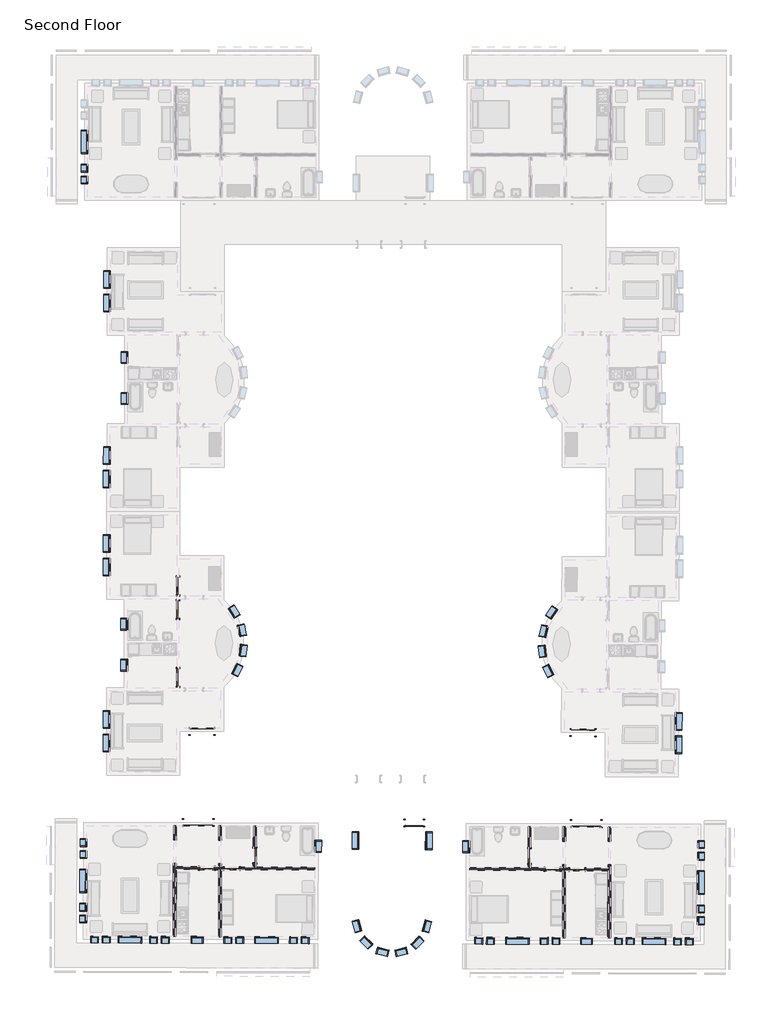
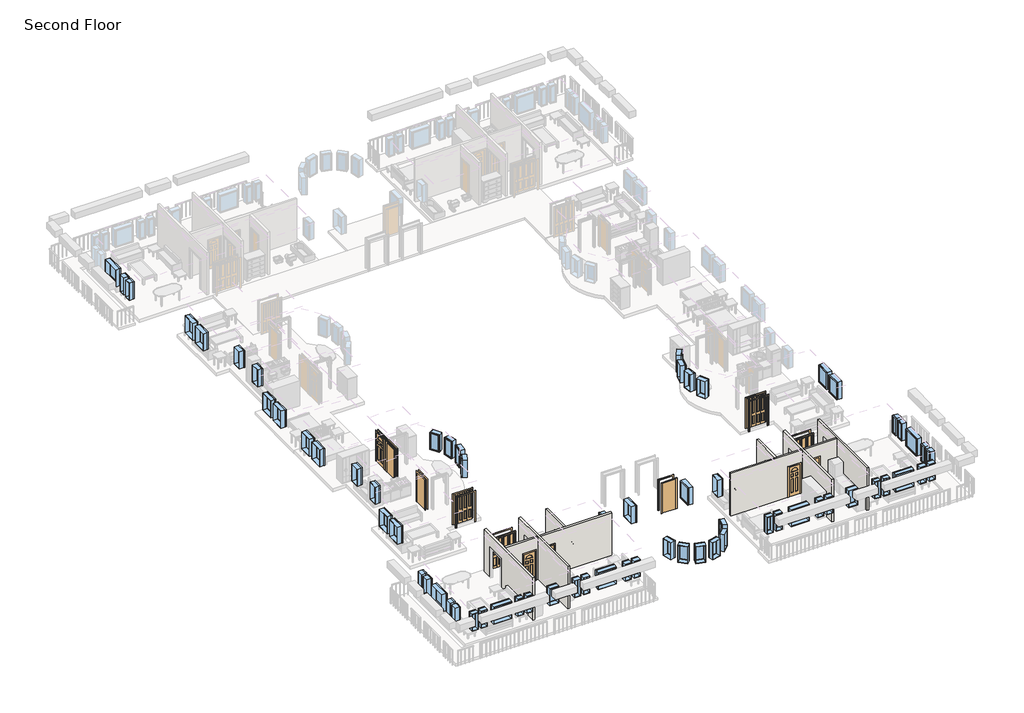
# One storey, part 1 of 8: 67 windows, 14 doors, 8 walls.
"""IFC4 building model written with IfcOpenShell, lengths in millimetres."""

from ifc_helpers import new_model, si_unit, frame, origin, place, context, project, spatial, polyline, outline, extrude, faceted_brep, transform, mapped, element, save
from components import m_bifold_4_panel_1220_x_2134mm_46e1cad3, m_bifold_4_panel_1220_x_2134mm_cde6dea2, m_bifold_4_panel_1525_x_2134mm_1ddae71f, m_bifold_4_panel_1525_x_2134mm_ac598c8b, m_single_decorative_2_0762_x_2134mm_0d0af7cb, m_single_decorative_2_0762_x_2134mm_2fe67c8e, m_single_decorative_2_0915_x_2134mm_0b11df3f, m_single_flush_0762_x_2134mm_0d89e411, m_single_flush_0762_x_2134mm_a28375c7, m_single_flush_0915_x_2134mm_ab9b6334, m_single_flush_0915_x_2134mm_08e0827a, m_single_flush_0915_x_2134mm_70678a7c, m_fixed_0406_x_1220mm_57fee329, m_fixed_0406_x_1220mm_85c28f40, m_fixed_0610_x_1220mm_2c28ef1d, m_fixed_0610_x_1220mm_1ea27827, m_fixed_0915_x_1220mm_bde29121, m_fixed_0915_x_1220mm_2a2509e7, m_fixed_1220_x_1220mm_e08ff7af, m_fixed_1220_x_1220mm_8f5f8ad3

model = new_model("IFC4")

# Units and contexts
model_context = context("Model", 3, world=origin())
ifc_project = project(units=[si_unit("LENGTHUNIT", "METRE", prefix="MILLI")], contexts=[model_context])

# Site, building, storey
site = spatial("IfcSite", under=ifc_project)
building = spatial("IfcBuilding", under=site)
storey = spatial("IfcBuildingStorey", under=building, Name="Second Floor", Elevation=3048.0)

# Doors
placement = place(None, origin())
m_bifold_4_panel_1220_x_2134mm_shape = m_bifold_4_panel_1220_x_2134mm_46e1cad3(model_context)
element("IfcDoor", 1, ObjectType="M_Bifold-4 Panel : 1220 x 2134mm", at=placement, inside=storey, context=model_context, shape_type="MappedRepresentation", body=[
    mapped(m_bifold_4_panel_1220_x_2134mm_shape, transform((-9084.0085376, -31158.0124606, 3048.0), x_axis=(0.9999905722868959, -0.0043422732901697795, 0.0), y_axis=(0.0043422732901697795, 0.9999905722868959, 0.0), z_axis=(0.0, 0.0, 1.0))),
])
m_bifold_4_panel_1220_x_2134mm_2_shape = m_bifold_4_panel_1220_x_2134mm_cde6dea2(model_context)
element("IfcDoor", 2, ObjectType="M_Bifold-4 Panel : 1220 x 2134mm", at=placement, inside=storey, context=model_context, shape_type="MappedRepresentation", body=[
    mapped(m_bifold_4_panel_1220_x_2134mm_2_shape, transform((-28896.4341492, -31100.6581424, 3048.0), x_axis=(-0.9999989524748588, 0.0014474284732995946, 0.0), y_axis=(-0.0014474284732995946, -0.9999989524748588, 0.0), z_axis=(0.0, 0.0, 1.0))),
])
m_bifold_4_panel_1525_x_2134mm_shape = m_bifold_4_panel_1525_x_2134mm_1ddae71f(model_context)
element("IfcDoor", 3, ObjectType="M_Bifold-4 Panel : 1525 x 2134mm", at=placement, inside=storey, context=model_context, shape_type="MappedRepresentation", body=[
    mapped(m_bifold_4_panel_1525_x_2134mm_shape, transform((-29084.8596063, -35825.933405, 3048.0), x_axis=(-0.9999958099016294, 0.0028948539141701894, 0.0), y_axis=(-0.0028948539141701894, -0.9999958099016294, 0.0), z_axis=(0.0, 0.0, 1.0))),
])
m_bifold_4_panel_1525_x_2134mm_2_shape = m_bifold_4_panel_1525_x_2134mm_ac598c8b(model_context)
element("IfcDoor", 4, ObjectType="M_Bifold-4 Panel : 1525 x 2134mm", at=placement, inside=storey, context=model_context, shape_type="MappedRepresentation", body=[
    mapped(m_bifold_4_panel_1525_x_2134mm_2_shape, transform((-8922.9440871, -35884.2994497, 3048.0), x_axis=(0.9999958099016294, -0.0028948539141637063, 0.0), y_axis=(0.0028948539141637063, 0.9999958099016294, 0.0), z_axis=(0.0, 0.0, 1.0))),
])
m_single_decorative_2_0762_x_2134mm_shape = m_single_decorative_2_0762_x_2134mm_0d0af7cb(model_context)
element("IfcDoor", 5, ObjectType="M_Single-Decorative 2 : 0762 x 2134mm", at=placement, inside=storey, context=model_context, shape_type="MappedRepresentation", body=[
    mapped(m_single_decorative_2_0762_x_2134mm_shape, transform((-10682.8170859, -38255.9648119, 3048.0), x_axis=(0.9999958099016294, -0.002894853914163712, 0.0), y_axis=(0.002894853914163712, 0.9999958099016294, 0.0), z_axis=(0.0, 0.0, 1.0))),
])
element("IfcDoor", 6, ObjectType="M_Single-Decorative 2 : 0762 x 2134mm", at=placement, inside=storey, context=model_context, shape_type="MappedRepresentation", body=[
    mapped(m_single_decorative_2_0762_x_2134mm_shape, transform((-28625.491904, -38204.0231719, 3048.0), x_axis=(0.9999958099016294, -0.0028948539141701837, 0.0), y_axis=(0.0028948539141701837, 0.9999958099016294, 0.0), z_axis=(0.0, 0.0, 1.0))),
])
m_single_decorative_2_0762_x_2134mm_2_shape = m_single_decorative_2_0762_x_2134mm_2fe67c8e(model_context)
element("IfcDoor", 7, ObjectType="M_Single-Decorative 2 : 0762 x 2134mm", at=placement, inside=storey, context=model_context, shape_type="MappedRepresentation", body=[
    mapped(m_single_decorative_2_0762_x_2134mm_2_shape, transform((-9396.0724775, -38259.6897652, 3048.0), x_axis=(-0.9999958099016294, 0.002894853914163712, 0.0), y_axis=(-0.002894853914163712, -0.9999958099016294, 0.0), z_axis=(0.0, 0.0, 1.0))),
])
element("IfcDoor", 8, ObjectType="M_Single-Decorative 2 : 0762 x 2134mm", at=placement, inside=storey, context=model_context, shape_type="MappedRepresentation", body=[
    mapped(m_single_decorative_2_0762_x_2134mm_2_shape, transform((-27338.7472956, -38207.7481251, 3048.0), x_axis=(-0.9999958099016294, 0.0028948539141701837, 0.0), y_axis=(-0.0028948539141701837, -0.9999958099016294, 0.0), z_axis=(0.0, 0.0, 1.0))),
])
m_single_decorative_2_0915_x_2134mm_shape = m_single_decorative_2_0915_x_2134mm_0b11df3f(model_context)
element("IfcDoor", 9, ObjectType="M_Single-Decorative 2 : 0915 x 2134mm", at=placement, inside=storey, context=model_context, shape_type="MappedRepresentation", body=[
    mapped(m_single_decorative_2_0915_x_2134mm_shape, transform((-30128.4841363, -23534.6169126, 3048.0), x_axis=(-0.0014474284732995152, -0.9999989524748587, 0.0), y_axis=(0.9999989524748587, -0.0014474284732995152, 0.0), z_axis=(0.0, 0.0, 1.0))),
])
m_single_flush_0762_x_2134mm_shape = m_single_flush_0762_x_2134mm_0d89e411(model_context)
element("IfcDoor", 10, ObjectType="M_Single-Flush : 0762 x 2134mm", at=placement, inside=storey, context=model_context, shape_type="MappedRepresentation", body=[
    mapped(m_single_flush_0762_x_2134mm_shape, transform((-26146.2902967, -37533.4472886, 3048.0), x_axis=(-0.0028948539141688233, -0.9999958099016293, 0.0), y_axis=(0.9999958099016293, -0.0028948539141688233, 0.0), z_axis=(0.0, 0.0, 1.0))),
])
m_single_flush_0762_x_2134mm_2_shape = m_single_flush_0762_x_2134mm_a28375c7(model_context)
element("IfcDoor", 11, ObjectType="M_Single-Flush : 0762 x 2134mm", at=placement, inside=storey, context=model_context, shape_type="MappedRepresentation", body=[
    mapped(m_single_flush_0762_x_2134mm_2_shape, transform((-11871.3501103, -37574.7713282, 3048.0), x_axis=(-0.002894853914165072, -0.9999958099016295, 0.0), y_axis=(0.9999958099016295, -0.002894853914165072, 0.0), z_axis=(0.0, 0.0, 1.0))),
])
m_single_flush_0915_x_2134mm_shape = m_single_flush_0915_x_2134mm_ab9b6334(model_context)
element("IfcDoor", 12, ObjectType="M_Single-Flush : 0915 x 2134mm", at=placement, inside=storey, context=model_context, shape_type="MappedRepresentation", body=[
    mapped(m_single_flush_0915_x_2134mm_shape, transform((-30135.3858371, -28302.8619177, 3048.0), x_axis=(-0.0014474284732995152, -0.9999989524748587, 0.0), y_axis=(0.9999989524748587, -0.0014474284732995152, 0.0), z_axis=(0.0, 0.0, 1.0))),
])
m_single_flush_0915_x_2134mm_2_shape = m_single_flush_0915_x_2134mm_08e0827a(model_context)
element("IfcDoor", 13, ObjectType="M_Single-Flush : 0915 x 2134mm", at=placement, inside=storey, context=model_context, shape_type="MappedRepresentation", body=[
    mapped(m_single_flush_0915_x_2134mm_2_shape, transform((-30130.249999, -24754.6156346, 3048.0), x_axis=(0.0014474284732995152, 0.9999989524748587, 0.0), y_axis=(-0.9999989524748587, 0.0014474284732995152, 0.0), z_axis=(0.0, 0.0, 1.0))),
])
m_single_flush_0915_x_2134mm_3_shape = m_single_flush_0915_x_2134mm_70678a7c(model_context)
element("IfcDoor", 14, ObjectType="M_Single-Flush : 0915 x 2134mm", at=placement, inside=storey, context=model_context, shape_type="MappedRepresentation", body=[
    mapped(m_single_flush_0915_x_2134mm_3_shape, transform((-17860.906636, -35858.4252454, 3048.0), x_axis=(0.9999958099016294, -0.0028948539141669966, 0.0), y_axis=(0.0028948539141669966, 0.9999958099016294, 0.0), z_axis=(0.0, 0.0, 1.0))),
])

# Walls
element("IfcWall", 15, ObjectType="Interior - 135mm Partition (2-hr)", at=placement, inside=storey, context=model_context, shape_type="Brep", body=[
    faceted_brep([(-7661.5898742, -41808.9757108, 3048.0), (-7650.6270624, -38021.9915787, 3048.0), (-7650.6270624, -38021.9915787, 5182.0), (-7647.0953406, -36801.9966906, 5182.0), (-7647.0953406, -36801.9966906, 3048.0), (-7644.9560436, -36062.9997871, 3048.0), (-7644.9560436, -36062.9997871, 6096.0), (-7661.5898742, -41808.9757108, 6096.0), (-7786.1264946, -38021.599326, 5182.0), (-7786.1264946, -38021.599326, 3048.0), (-7786.6330941, -38196.5985928, 3048.0), (-7787.0253468, -38332.098025, 3048.0), (-7797.0893064, -41808.5834581, 3048.0), (-7797.0893064, -41808.5834581, 6096.0), (-7787.0253468, -38332.098025, 6096.0), (-7786.6330941, -38196.5985928, 6096.0), (-7780.4554758, -36062.6075344, 6096.0), (-7780.4554758, -36062.6075344, 3048.0), (-7782.5947729, -36801.6044379, 3048.0), (-7782.5947729, -36801.6044379, 5182.0)], [[[0, 1, 2, 3, 4, 5, 6, 7]], [[8, 9, 10, 11, 12, 13, 14, 15, 16, 17, 18, 19]], [[18, 17, 5, 4]], [[12, 11, 10, 9, 1, 0]], [[7, 6, 16, 15, 14, 13]], [[4, 3, 19, 18]], [[2, 1, 9, 8]], [[3, 2, 8, 19]], [[6, 5, 17, 16]], [[0, 7, 13, 12]]]),
])
element("IfcWall", 16, ObjectType="Interior - 135mm Partition (2-hr)", at=placement, inside=storey, context=model_context, shape_type="Brep", body=[
    faceted_brep([(-10000.8354782, -36795.1829282, 5182.0), (-10000.8354782, -36795.1829282, 3048.0), (-9998.6961811, -36056.1860247, 3048.0), (-9998.6961811, -36056.1860247, 6096.0), (-10004.8737994, -38190.1770831, 6096.0), (-10005.2660521, -38325.6765153, 6096.0), (-10015.3300117, -41802.1619484, 6096.0), (-10015.3300117, -41802.1619484, 3048.0), (-10005.2660521, -38325.6765153, 3048.0), (-10004.8737994, -38190.1770831, 3048.0), (-10004.3671999, -38015.1778163, 3048.0), (-10004.3671999, -38015.1778163, 5182.0), (-10134.1956134, -36055.793772, 3048.0), (-10136.3349104, -36794.7906755, 3048.0), (-10136.3349104, -36794.7906755, 5182.0), (-10139.8666322, -38014.7855636, 5182.0), (-10139.8666322, -38014.7855636, 3048.0), (-10140.3732316, -38189.7848304, 3048.0), (-10140.7654843, -38325.2842626, 3048.0), (-10150.829444, -41801.7696957, 3048.0), (-10150.829444, -41801.7696957, 6096.0), (-10140.7654843, -38325.2842626, 6096.0), (-10140.3732316, -38189.7848304, 6096.0), (-10134.1956134, -36055.793772, 6096.0)], [[[0, 1, 2, 3, 4, 5, 6, 7, 8, 9, 10, 11]], [[12, 13, 14, 15, 16, 17, 18, 19, 20, 21, 22, 23]], [[2, 1, 13, 12]], [[10, 9, 8, 7, 19, 18, 17, 16]], [[6, 5, 4, 3, 23, 22, 21, 20]], [[16, 15, 11, 10]], [[14, 13, 1, 0]], [[15, 14, 0, 11]], [[3, 2, 12, 23]], [[7, 6, 20, 19]]]),
])
element("IfcWall", 17, ObjectType="Interior - 135mm Partition (2-hr)", at=placement, inside=storey, context=model_context, shape_type="Brep", body=[
    faceted_brep([(-9777.2670074, -38326.336542, 3048.0), (-9777.2670074, -38326.336542, 5182.0), (-9015.2702003, -38328.5424207, 5182.0), (-9015.2702003, -38328.5424207, 3048.0), (-7787.0253468, -38332.098025, 3048.0), (-7787.0253468, -38332.098025, 6096.0), (-10005.2660521, -38325.6765153, 6096.0), (-10005.2660521, -38325.6765153, 3048.0), (-9776.8747547, -38190.8371097, 5182.0), (-9776.8747547, -38190.8371097, 3048.0), (-10004.8737994, -38190.1770831, 3048.0), (-10004.8737994, -38190.1770831, 6096.0), (-7786.6330941, -38196.5985928, 6096.0), (-7786.6330941, -38196.5985928, 3048.0), (-9014.8779476, -38193.0429884, 3048.0), (-9014.8779476, -38193.0429884, 5182.0)], [[[0, 1, 2, 3, 4, 5, 6, 7]], [[8, 9, 10, 11, 12, 13, 14, 15]], [[9, 0, 7, 10]], [[3, 14, 13, 4]], [[5, 12, 11, 6]], [[1, 0, 9, 8]], [[2, 1, 8, 15]], [[3, 2, 15, 14]], [[5, 4, 13, 12]], [[7, 6, 11, 10]]]),
    faceted_brep([(-10302.0148087, -38324.8174674, 5182.0), (-10302.0148087, -38324.8174674, 3048.0), (-10140.7654843, -38325.2842626, 3048.0), (-10140.7654843, -38325.2842626, 6096.0), (-14989.2451686, -38311.2485634, 6096.0), (-14989.2451686, -38311.2485634, 3048.0), (-11064.0116158, -38322.6115887, 3048.0), (-11064.0116158, -38322.6115887, 5182.0), (-10301.622556, -38189.3180352, 3048.0), (-10301.622556, -38189.3180352, 5182.0), (-11063.6193631, -38187.1121565, 5182.0), (-11063.6193631, -38187.1121565, 3048.0), (-11805.3662551, -38184.9648986, 3048.0), (-11940.8656874, -38184.5726459, 3048.0), (-14988.8529159, -38175.7491311, 3048.0), (-14988.8529159, -38175.7491311, 6096.0), (-11940.8656874, -38184.5726459, 6096.0), (-11805.3662551, -38184.9648986, 6096.0), (-10140.3732316, -38189.7848304, 6096.0), (-10140.3732316, -38189.7848304, 3048.0)], [[[0, 1, 2, 3, 4, 5, 6, 7]], [[8, 9, 10, 11, 12, 13, 14, 15, 16, 17, 18, 19]], [[1, 8, 19, 2]], [[11, 6, 5, 14, 13, 12]], [[15, 4, 3, 18, 17, 16]], [[9, 8, 1, 0]], [[10, 9, 0, 7]], [[11, 10, 7, 6]], [[5, 4, 15, 14]], [[3, 2, 19, 18]]]),
])
element("IfcWall", 18, ObjectType="Interior - 135mm Partition (2-hr)", at=placement, inside=storey, context=model_context, shape_type="SweptSolid", body=[
    extrude(outline(polyline([(-2309.0, 0.0), (-2080.0, 0.0), (-2080.0, -2134.0), (-1318.0, -2134.0), (-1318.0, 0.0), (-175.0000001, 0.0), (-175.0000001, -3048.0), (-2309.0, -3048.0), (-2309.0, 0.0)])), frame((-11798.6820374, -35875.9745735, 3048.0), z_axis=(-0.9999958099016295, 0.002894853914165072, 0.0), x_axis=(0.002894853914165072, 0.9999958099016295, 0.0)), (0.0, 0.0, 1.0), 135.5),
])
element("IfcWall", 19, ObjectType="Interior - 135mm Partition (2-hr)", at=placement, inside=storey, context=model_context, shape_type="Brep", body=[
    faceted_brep([(-30244.9952471, -41743.5997775, 3048.0), (-30234.9312874, -38267.1143443, 3048.0), (-30234.5390347, -38131.6149121, 3048.0), (-30234.0324353, -37956.6156454, 3048.0), (-30234.0324353, -37956.6156454, 5182.0), (-30230.5007135, -36736.6207573, 5182.0), (-30230.5007135, -36736.6207573, 3048.0), (-30228.3614165, -35997.6238538, 3048.0), (-30228.3614165, -35997.6238538, 6096.0), (-30234.5390347, -38131.6149121, 6096.0), (-30234.9312874, -38267.1143443, 6096.0), (-30244.9952471, -41743.5997775, 6096.0), (-30369.5318675, -37956.2233926, 5182.0), (-30369.5318675, -37956.2233926, 3048.0), (-30380.4946793, -41743.2075247, 3048.0), (-30380.4946793, -41743.2075247, 6096.0), (-30363.8608487, -35997.2316011, 6096.0), (-30363.8608487, -35997.2316011, 3048.0), (-30366.0001458, -36736.2285046, 3048.0), (-30366.0001458, -36736.2285046, 5182.0)], [[[0, 1, 2, 3, 4, 5, 6, 7, 8, 9, 10, 11]], [[12, 13, 14, 15, 16, 17, 18, 19]], [[18, 17, 7, 6]], [[14, 13, 3, 2, 1, 0]], [[11, 10, 9, 8, 16, 15]], [[6, 5, 19, 18]], [[4, 3, 13, 12]], [[5, 4, 12, 19]], [[0, 11, 15, 14]], [[8, 7, 17, 16]]]),
])
element("IfcWall", 20, ObjectType="Interior - 135mm Partition (2-hr)", at=placement, inside=storey, context=model_context, shape_type="Brep", body=[
    faceted_brep([(-27876.760576, -36743.4345197, 5182.0), (-27876.760576, -36743.4345197, 3048.0), (-27874.6212789, -36004.4376162, 3048.0), (-27874.6212789, -36004.4376162, 6096.0), (-27880.7988972, -38138.4286745, 6096.0), (-27881.1911499, -38273.9281067, 6096.0), (-27891.2551095, -41750.4135399, 6096.0), (-27891.2551095, -41750.4135399, 3048.0), (-27881.1911499, -38273.9281067, 3048.0), (-27880.7988972, -38138.4286745, 3048.0), (-27880.2922977, -37963.4294078, 3048.0), (-27880.2922977, -37963.4294078, 5182.0), (-28010.1207112, -36004.0453635, 3048.0), (-28012.2600082, -36743.042267, 3048.0), (-28012.2600082, -36743.042267, 5182.0), (-28015.79173, -37963.037155, 5182.0), (-28015.79173, -37963.037155, 3048.0), (-28016.2983294, -38138.0364218, 3048.0), (-28016.6905821, -38273.535854, 3048.0), (-28026.7545418, -41750.0212871, 3048.0), (-28026.7545418, -41750.0212871, 6096.0), (-28016.6905821, -38273.535854, 6096.0), (-28016.2983294, -38138.0364218, 6096.0), (-28010.1207112, -36004.0453635, 6096.0)], [[[0, 1, 2, 3, 4, 5, 6, 7, 8, 9, 10, 11]], [[12, 13, 14, 15, 16, 17, 18, 19, 20, 21, 22, 23]], [[2, 1, 13, 12]], [[10, 9, 8, 7, 19, 18, 17, 16]], [[6, 5, 4, 3, 23, 22, 21, 20]], [[16, 15, 11, 10]], [[14, 13, 1, 0]], [[15, 14, 0, 11]], [[7, 6, 20, 19]], [[3, 2, 12, 23]]]),
])
element("IfcWall", 21, ObjectType="Interior - 135mm Partition (2-hr)", at=placement, inside=storey, context=model_context, shape_type="Brep", body=[
    faceted_brep([(-30234.5390347, -38131.6149121, 3048.0), (-30234.5390347, -38131.6149121, 6096.0), (-28016.2983294, -38138.0364218, 6096.0), (-28016.2983294, -38138.0364218, 3048.0), (-28244.2973741, -38137.3763951, 3048.0), (-28244.2973741, -38137.3763951, 5182.0), (-29006.2941812, -38135.1705164, 5182.0), (-29006.2941812, -38135.1705164, 3048.0), (-30234.9312874, -38267.1143443, 6096.0), (-30234.9312874, -38267.1143443, 3048.0), (-29006.6864339, -38270.6699486, 3048.0), (-29006.6864339, -38270.6699486, 5182.0), (-28244.6896268, -38272.8758273, 5182.0), (-28244.6896268, -38272.8758273, 3048.0), (-28016.6905821, -38273.535854, 3048.0), (-28016.6905821, -38273.535854, 6096.0)], [[[0, 1, 2, 3, 4, 5, 6, 7]], [[8, 9, 10, 11, 12, 13, 14, 15]], [[9, 0, 7, 10]], [[13, 4, 3, 14]], [[1, 8, 15, 2]], [[1, 0, 9, 8]], [[3, 2, 15, 14]], [[5, 4, 13, 12]], [[6, 5, 12, 11]], [[7, 6, 11, 10]]]),
    faceted_brep([(-27719.5495728, -38138.8954697, 5182.0), (-27719.5495728, -38138.8954697, 3048.0), (-27880.7988972, -38138.4286745, 3048.0), (-27880.7988972, -38138.4286745, 6096.0), (-26215.8058737, -38143.2486063, 6096.0), (-26080.3064415, -38143.640859, 6096.0), (-23032.3192129, -38152.4643737, 6096.0), (-23032.3192129, -38152.4643737, 3048.0), (-26080.3064415, -38143.640859, 3048.0), (-26215.8058737, -38143.2486063, 3048.0), (-26957.5527657, -38141.1013484, 3048.0), (-26957.5527657, -38141.1013484, 5182.0), (-27719.9418255, -38274.3949019, 3048.0), (-27719.9418255, -38274.3949019, 5182.0), (-26957.9450184, -38276.6007806, 5182.0), (-26957.9450184, -38276.6007806, 3048.0), (-23032.7114656, -38287.9638059, 3048.0), (-23032.7114656, -38287.9638059, 6096.0), (-27881.1911499, -38273.9281067, 6096.0), (-27881.1911499, -38273.9281067, 3048.0)], [[[0, 1, 2, 3, 4, 5, 6, 7, 8, 9, 10, 11]], [[12, 13, 14, 15, 16, 17, 18, 19]], [[1, 12, 19, 2]], [[15, 10, 9, 8, 7, 16]], [[17, 6, 5, 4, 3, 18]], [[3, 2, 19, 18]], [[13, 12, 1, 0]], [[14, 13, 0, 11]], [[15, 14, 11, 10]], [[7, 6, 17, 16]]]),
])
element("IfcWall", 22, ObjectType="Interior - 135mm Partition (2-hr)", at=placement, inside=storey, context=model_context, shape_type="SweptSolid", body=[
    extrude(outline(polyline([(-2309.0, 0.0), (-2080.0, 0.0), (-2080.0, -2134.0), (-1317.9999999, -2134.0), (-1317.9999999, 0.0), (-175.0, 0.0), (-175.0, -3048.0), (-2309.0, -3048.0), (-2309.0, 0.0)])), frame((-26073.6222238, -35834.6505339, 3048.0), z_axis=(-0.9999958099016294, 0.0028948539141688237, 0.0), x_axis=(0.0028948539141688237, 0.9999958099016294, 0.0)), (0.0, 0.0, 1.0), 135.5),
])

# Windows
m_fixed_0406_x_1220mm_shape = m_fixed_0406_x_1220mm_57fee329(model_context)
element("IfcWindow", 23, ObjectType="M_Fixed : 0406 x 1220mm", at=placement, inside=storey, context=model_context, shape_type="MappedRepresentation", body=[
    mapped(m_fixed_0406_x_1220mm_shape, transform((-35008.8416203, -2447.8811614, 3048.0), x_axis=(0.0, -1.0, 0.0), y_axis=(1.0, 0.0, 0.0), z_axis=(0.0, 0.0, 1.0))),
])
element("IfcWindow", 24, ObjectType="M_Fixed : 0406 x 1220mm", at=placement, inside=storey, context=model_context, shape_type="MappedRepresentation", body=[
    mapped(m_fixed_0406_x_1220mm_shape, transform((-35008.8416203, -1837.8811614, 3048.0), x_axis=(0.0, -1.0, 0.0), y_axis=(1.0, 0.0, 0.0), z_axis=(0.0, 0.0, 1.0))),
])
element("IfcWindow", 25, ObjectType="M_Fixed : 0406 x 1220mm", at=placement, inside=storey, context=model_context, shape_type="MappedRepresentation", body=[
    mapped(m_fixed_0406_x_1220mm_shape, transform((-10500.8722121, -41988.7571565, 3048.0), x_axis=(0.9999958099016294, -0.002894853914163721, 0.0), y_axis=(0.002894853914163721, 0.9999958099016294, 0.0), z_axis=(0.0, 0.0, 1.0))),
])
element("IfcWindow", 26, ObjectType="M_Fixed : 0406 x 1220mm", at=placement, inside=storey, context=model_context, shape_type="MappedRepresentation", body=[
    mapped(m_fixed_0406_x_1220mm_shape, transform((-11110.8696561, -41986.9912956, 3048.0), x_axis=(0.9999958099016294, -0.002894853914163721, 0.0), y_axis=(0.002894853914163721, 0.9999958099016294, 0.0), z_axis=(0.0, 0.0, 1.0))),
])
element("IfcWindow", 27, ObjectType="M_Fixed : 0406 x 1220mm", at=placement, inside=storey, context=model_context, shape_type="MappedRepresentation", body=[
    mapped(m_fixed_0406_x_1220mm_shape, transform((-3572.1512442, -42008.8148756, 3048.0), x_axis=(0.9999958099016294, -0.002894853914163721, 0.0), y_axis=(0.002894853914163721, 0.9999958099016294, 0.0), z_axis=(0.0, 0.0, 1.0))),
])
element("IfcWindow", 28, ObjectType="M_Fixed : 0406 x 1220mm", at=placement, inside=storey, context=model_context, shape_type="MappedRepresentation", body=[
    mapped(m_fixed_0406_x_1220mm_shape, transform((-4182.1486882, -42007.0490147, 3048.0), x_axis=(0.9999958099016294, -0.002894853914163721, 0.0), y_axis=(0.002894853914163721, 0.9999958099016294, 0.0), z_axis=(0.0, 0.0, 1.0))),
])
element("IfcWindow", 29, ObjectType="M_Fixed : 0406 x 1220mm", at=placement, inside=storey, context=model_context, shape_type="MappedRepresentation", body=[
    mapped(m_fixed_0406_x_1220mm_shape, transform((-2955.3079143, -36968.5794278, 3048.0), x_axis=(0.0028948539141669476, 0.9999958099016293, 0.0), y_axis=(-0.9999958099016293, 0.0028948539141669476, 0.0), z_axis=(0.0, 0.0, 1.0))),
])
element("IfcWindow", 30, ObjectType="M_Fixed : 0406 x 1220mm", at=placement, inside=storey, context=model_context, shape_type="MappedRepresentation", body=[
    mapped(m_fixed_0406_x_1220mm_shape, transform((-2957.0737751, -37578.5768719, 3048.0), x_axis=(0.0028948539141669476, 0.9999958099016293, 0.0), y_axis=(-0.9999958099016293, 0.0028948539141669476, 0.0), z_axis=(0.0, 0.0, 1.0))),
])
element("IfcWindow", 31, ObjectType="M_Fixed : 0406 x 1220mm", at=placement, inside=storey, context=model_context, shape_type="MappedRepresentation", body=[
    mapped(m_fixed_0406_x_1220mm_shape, transform((-23528.3176256, -41951.0444472, 3048.0), x_axis=(0.9999958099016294, -0.0028948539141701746, 0.0), y_axis=(0.0028948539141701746, 0.9999958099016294, 0.0), z_axis=(0.0, 0.0, 1.0))),
])
element("IfcWindow", 32, ObjectType="M_Fixed : 0406 x 1220mm", at=placement, inside=storey, context=model_context, shape_type="MappedRepresentation", body=[
    mapped(m_fixed_0406_x_1220mm_shape, transform((-24138.3150696, -41949.2785863, 3048.0), x_axis=(0.9999958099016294, -0.0028948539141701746, 0.0), y_axis=(0.0028948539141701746, 0.9999958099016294, 0.0), z_axis=(0.0, 0.0, 1.0))),
])
element("IfcWindow", 33, ObjectType="M_Fixed : 0406 x 1220mm", at=placement, inside=storey, context=model_context, shape_type="MappedRepresentation", body=[
    mapped(m_fixed_0406_x_1220mm_shape, transform((-30795.2871761, -41930.0075438, 3048.0), x_axis=(0.9999958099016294, -0.0028948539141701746, 0.0), y_axis=(0.0028948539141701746, 0.9999958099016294, 0.0), z_axis=(0.0, 0.0, 1.0))),
])
element("IfcWindow", 34, ObjectType="M_Fixed : 0406 x 1220mm", at=placement, inside=storey, context=model_context, shape_type="MappedRepresentation", body=[
    mapped(m_fixed_0406_x_1220mm_shape, transform((-31405.2846201, -41928.2416829, 3048.0), x_axis=(0.9999958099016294, -0.0028948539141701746, 0.0), y_axis=(0.0028948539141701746, 0.9999958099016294, 0.0), z_axis=(0.0, 0.0, 1.0))),
])
element("IfcWindow", 35, ObjectType="M_Fixed : 0406 x 1220mm", at=placement, inside=storey, context=model_context, shape_type="MappedRepresentation", body=[
    mapped(m_fixed_0406_x_1220mm_shape, transform((-35070.1428086, -40837.627884, 3048.0), x_axis=(-0.002894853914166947, -0.9999958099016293, 0.0), y_axis=(0.9999958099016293, -0.002894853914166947, 0.0), z_axis=(0.0, 0.0, 1.0))),
])
element("IfcWindow", 36, ObjectType="M_Fixed : 0406 x 1220mm", at=placement, inside=storey, context=model_context, shape_type="MappedRepresentation", body=[
    mapped(m_fixed_0406_x_1220mm_shape, transform((-35068.3769478, -40227.63044, 3048.0), x_axis=(-0.002894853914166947, -0.9999958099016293, 0.0), y_axis=(0.9999958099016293, -0.002894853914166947, 0.0), z_axis=(0.0, 0.0, 1.0))),
])
m_fixed_0406_x_1220mm_2_shape = m_fixed_0406_x_1220mm_85c28f40(model_context)
element("IfcWindow", 37, ObjectType="M_Fixed : 0406 x 1220mm", at=placement, inside=storey, context=model_context, shape_type="MappedRepresentation", body=[
    mapped(m_fixed_0406_x_1220mm_2_shape, transform((-14514.855393, -41977.1372129, 3048.0), x_axis=(-0.9999958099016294, 0.002894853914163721, 0.0), y_axis=(-0.002894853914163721, -0.9999958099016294, 0.0), z_axis=(0.0, 0.0, 1.0))),
])
element("IfcWindow", 38, ObjectType="M_Fixed : 0406 x 1220mm", at=placement, inside=storey, context=model_context, shape_type="MappedRepresentation", body=[
    mapped(m_fixed_0406_x_1220mm_2_shape, transform((-13904.857949, -41978.9030738, 3048.0), x_axis=(-0.9999958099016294, 0.002894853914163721, 0.0), y_axis=(-0.002894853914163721, -0.9999958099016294, 0.0), z_axis=(0.0, 0.0, 1.0))),
])
element("IfcWindow", 39, ObjectType="M_Fixed : 0406 x 1220mm", at=placement, inside=storey, context=model_context, shape_type="MappedRepresentation", body=[
    mapped(m_fixed_0406_x_1220mm_2_shape, transform((-7247.8858424, -41998.1741163, 3048.0), x_axis=(-0.9999958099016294, 0.002894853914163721, 0.0), y_axis=(-0.002894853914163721, -0.9999958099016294, 0.0), z_axis=(0.0, 0.0, 1.0))),
])
element("IfcWindow", 40, ObjectType="M_Fixed : 0406 x 1220mm", at=placement, inside=storey, context=model_context, shape_type="MappedRepresentation", body=[
    mapped(m_fixed_0406_x_1220mm_2_shape, transform((-6637.8883984, -41999.9399772, 3048.0), x_axis=(-0.9999958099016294, 0.002894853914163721, 0.0), y_axis=(-0.002894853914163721, -0.9999958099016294, 0.0), z_axis=(0.0, 0.0, 1.0))),
])
element("IfcWindow", 41, ObjectType="M_Fixed : 0406 x 1220mm", at=placement, inside=storey, context=model_context, shape_type="MappedRepresentation", body=[
    mapped(m_fixed_0406_x_1220mm_2_shape, transform((-2966.7773255, -40930.5628267, 3048.0), x_axis=(-0.0028948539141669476, -0.9999958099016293, 0.0), y_axis=(0.9999958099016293, -0.0028948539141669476, 0.0), z_axis=(0.0, 0.0, 1.0))),
])
element("IfcWindow", 42, ObjectType="M_Fixed : 0406 x 1220mm", at=placement, inside=storey, context=model_context, shape_type="MappedRepresentation", body=[
    mapped(m_fixed_0406_x_1220mm_2_shape, transform((-2965.0114646, -40320.5653826, 3048.0), x_axis=(-0.0028948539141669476, -0.9999958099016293, 0.0), y_axis=(0.9999958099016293, -0.0028948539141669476, 0.0), z_axis=(0.0, 0.0, 1.0))),
])
element("IfcWindow", 43, ObjectType="M_Fixed : 0406 x 1220mm", at=placement, inside=storey, context=model_context, shape_type="MappedRepresentation", body=[
    mapped(m_fixed_0406_x_1220mm_2_shape, transform((-27542.3008065, -41939.4245036, 3048.0), x_axis=(-0.9999958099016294, 0.0028948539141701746, 0.0), y_axis=(-0.0028948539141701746, -0.9999958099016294, 0.0), z_axis=(0.0, 0.0, 1.0))),
])
element("IfcWindow", 44, ObjectType="M_Fixed : 0406 x 1220mm", at=placement, inside=storey, context=model_context, shape_type="MappedRepresentation", body=[
    mapped(m_fixed_0406_x_1220mm_2_shape, transform((-26932.3033625, -41941.1903644, 3048.0), x_axis=(-0.9999958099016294, 0.0028948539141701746, 0.0), y_axis=(-0.0028948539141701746, -0.9999958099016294, 0.0), z_axis=(0.0, 0.0, 1.0))),
])
element("IfcWindow", 45, ObjectType="M_Fixed : 0406 x 1220mm", at=placement, inside=storey, context=model_context, shape_type="MappedRepresentation", body=[
    mapped(m_fixed_0406_x_1220mm_2_shape, transform((-34471.0217744, -41919.3667845, 3048.0), x_axis=(-0.9999958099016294, 0.0028948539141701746, 0.0), y_axis=(-0.0028948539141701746, -0.9999958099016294, 0.0), z_axis=(0.0, 0.0, 1.0))),
])
element("IfcWindow", 46, ObjectType="M_Fixed : 0406 x 1220mm", at=placement, inside=storey, context=model_context, shape_type="MappedRepresentation", body=[
    mapped(m_fixed_0406_x_1220mm_2_shape, transform((-33861.0243303, -41921.1326454, 3048.0), x_axis=(-0.9999958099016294, 0.0028948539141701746, 0.0), y_axis=(-0.0028948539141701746, -0.9999958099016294, 0.0), z_axis=(0.0, 0.0, 1.0))),
])
element("IfcWindow", 47, ObjectType="M_Fixed : 0406 x 1220mm", at=placement, inside=storey, context=model_context, shape_type="MappedRepresentation", body=[
    mapped(m_fixed_0406_x_1220mm_2_shape, transform((-35058.6733974, -36875.6444852, 3048.0), x_axis=(0.002894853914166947, 0.9999958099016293, 0.0), y_axis=(-0.9999958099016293, 0.002894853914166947, 0.0), z_axis=(0.0, 0.0, 1.0))),
])
element("IfcWindow", 48, ObjectType="M_Fixed : 0406 x 1220mm", at=placement, inside=storey, context=model_context, shape_type="MappedRepresentation", body=[
    mapped(m_fixed_0406_x_1220mm_2_shape, transform((-35060.4392583, -37485.6419292, 3048.0), x_axis=(0.002894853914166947, 0.9999958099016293, 0.0), y_axis=(-0.9999958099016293, 0.002894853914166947, 0.0), z_axis=(0.0, 0.0, 1.0))),
])
m_fixed_0610_x_1220mm_shape = m_fixed_0610_x_1220mm_2c28ef1d(model_context)
element("IfcWindow", 49, ObjectType="M_Fixed : 0610 x 1220mm", at=placement, inside=storey, context=model_context, shape_type="MappedRepresentation", body=[
    mapped(m_fixed_0610_x_1220mm_shape, transform((-32923.0053866, -13805.8618518, 3048.0), x_axis=(-0.0014474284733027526, -0.9999989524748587, 0.0), y_axis=(0.9999989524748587, -0.0014474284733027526, 0.0), z_axis=(0.0, 0.0, 1.0))),
])
element("IfcWindow", 50, ObjectType="M_Fixed : 0610 x 1220mm", at=placement, inside=storey, context=model_context, shape_type="MappedRepresentation", body=[
    mapped(m_fixed_0610_x_1220mm_shape, transform((-32919.9171532, -11672.2640868, 3048.0), x_axis=(-0.0014474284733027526, -0.9999989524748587, 0.0), y_axis=(0.9999989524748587, -0.0014474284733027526, 0.0), z_axis=(0.0, 0.0, 1.0))),
])
element("IfcWindow", 51, ObjectType="M_Fixed : 0610 x 1220mm", at=placement, inside=storey, context=model_context, shape_type="MappedRepresentation", body=[
    mapped(m_fixed_0610_x_1220mm_shape, transform((-17192.9734341, -41226.7827416, 3048.0), x_axis=(0.2616141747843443, 0.9651725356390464, 0.0), y_axis=(-0.9651725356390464, 0.2616141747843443, 0.0), z_axis=(0.0, 0.0, 1.0))),
])
element("IfcWindow", 52, ObjectType="M_Fixed : 0610 x 1220mm", at=placement, inside=storey, context=model_context, shape_type="MappedRepresentation", body=[
    mapped(m_fixed_0610_x_1220mm_shape, transform((-18533.9080335, -42559.9760987, 3048.0), x_axis=(0.9666710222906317, 0.2560217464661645, 0.0), y_axis=(-0.2560217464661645, 0.9666710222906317, 0.0), z_axis=(0.0, 0.0, 1.0))),
])
element("IfcWindow", 53, ObjectType="M_Fixed : 0610 x 1220mm", at=placement, inside=storey, context=model_context, shape_type="MappedRepresentation", body=[
    mapped(m_fixed_0610_x_1220mm_shape, transform((-17684.8266921, -42073.0305917, 3048.0), x_axis=(0.709150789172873, 0.7050568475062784, 0.0), y_axis=(-0.7050568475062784, 0.709150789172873, 0.0), z_axis=(0.0, 0.0, 1.0))),
])
element("IfcWindow", 54, ObjectType="M_Fixed : 0610 x 1220mm", at=placement, inside=storey, context=model_context, shape_type="MappedRepresentation", body=[
    mapped(m_fixed_0610_x_1220mm_shape, transform((-10733.6258869, -24914.686736, 3048.0), x_axis=(-0.5501771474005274, -0.835047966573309, 0.0), y_axis=(0.835047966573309, -0.5501771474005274, 0.0), z_axis=(0.0, 0.0, 1.0))),
])
element("IfcWindow", 55, ObjectType="M_Fixed : 0610 x 1220mm", at=placement, inside=storey, context=model_context, shape_type="MappedRepresentation", body=[
    mapped(m_fixed_0610_x_1220mm_shape, transform((-11153.2313288, -25885.3058303, 3048.0), x_axis=(-0.23139418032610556, -0.9728600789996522, 0.0), y_axis=(0.9728600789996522, -0.23139418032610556, 0.0), z_axis=(0.0, 0.0, 1.0))),
])
element("IfcWindow", 56, ObjectType="M_Fixed : 0610 x 1220mm", at=placement, inside=storey, context=model_context, shape_type="MappedRepresentation", body=[
    mapped(m_fixed_0610_x_1220mm_shape, transform((-29136.4441269, -41934.8096722, 3048.0), x_axis=(0.9999958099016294, -0.0028948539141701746, 0.0), y_axis=(0.0028948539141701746, 0.9999958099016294, 0.0), z_axis=(0.0, 0.0, 1.0))),
])
element("IfcWindow", 57, ObjectType="M_Fixed : 0610 x 1220mm", at=placement, inside=storey, context=model_context, shape_type="MappedRepresentation", body=[
    mapped(m_fixed_0610_x_1220mm_shape, transform((-22841.1675047, -37064.0131692, 3048.0), x_axis=(0.0028948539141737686, 0.9999958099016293, 0.0), y_axis=(-0.9999958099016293, 0.0028948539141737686, 0.0), z_axis=(0.0, 0.0, 1.0))),
])
element("IfcWindow", 58, ObjectType="M_Fixed : 0610 x 1220mm", at=placement, inside=storey, context=model_context, shape_type="MappedRepresentation", body=[
    mapped(m_fixed_0610_x_1220mm_shape, transform((-27047.2502691, -27908.2496385, 3048.0), x_axis=(0.4532525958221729, 0.8913821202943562, 0.0), y_axis=(-0.8913821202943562, 0.4532525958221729, 0.0), z_axis=(0.0, 0.0, 1.0))),
])
element("IfcWindow", 59, ObjectType="M_Fixed : 0610 x 1220mm", at=placement, inside=storey, context=model_context, shape_type="MappedRepresentation", body=[
    mapped(m_fixed_0610_x_1220mm_shape, transform((-26738.7440135, -26896.1747529, 3048.0), x_axis=(0.12104747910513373, 0.9926467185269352, 0.0), y_axis=(-0.9926467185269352, 0.12104747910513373, 0.0), z_axis=(0.0, 0.0, 1.0))),
])
m_fixed_0610_x_1220mm_2_shape = m_fixed_0610_x_1220mm_1ea27827(model_context)
element("IfcWindow", 60, ObjectType="M_Fixed : 0610 x 1220mm", at=placement, inside=storey, context=model_context, shape_type="MappedRepresentation", body=[
    mapped(m_fixed_0610_x_1220mm_2_shape, transform((-8906.7288917, -41993.3719879, 3048.0), x_axis=(-0.9999958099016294, 0.002894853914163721, 0.0), y_axis=(-0.002894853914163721, -0.9999958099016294, 0.0), z_axis=(0.0, 0.0, 1.0))),
])
element("IfcWindow", 61, ObjectType="M_Fixed : 0610 x 1220mm", at=placement, inside=storey, context=model_context, shape_type="MappedRepresentation", body=[
    mapped(m_fixed_0610_x_1220mm_2_shape, transform((-15173.6996323, -37086.2094616, 3048.0), x_axis=(0.0028948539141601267, 0.9999958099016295, 0.0), y_axis=(-0.9999958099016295, 0.0028948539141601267, 0.0), z_axis=(0.0, 0.0, 1.0))),
])
element("IfcWindow", 62, ObjectType="M_Fixed : 0610 x 1220mm", at=placement, inside=storey, context=model_context, shape_type="MappedRepresentation", body=[
    mapped(m_fixed_0610_x_1220mm_2_shape, transform((-20845.9001557, -41216.208008, 3048.0), x_axis=(-0.25602174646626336, 0.9666710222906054, 0.0), y_axis=(-0.9666710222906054, -0.25602174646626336, 0.0), z_axis=(0.0, 0.0, 1.0))),
])
element("IfcWindow", 63, ObjectType="M_Fixed : 0610 x 1220mm", at=placement, inside=storey, context=model_context, shape_type="MappedRepresentation", body=[
    mapped(m_fixed_0610_x_1220mm_2_shape, transform((-19512.7067986, -42557.1426074, 3048.0), x_axis=(-0.9651725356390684, 0.26161417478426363, 0.0), y_axis=(-0.26161417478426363, -0.9651725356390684, 0.0), z_axis=(0.0, 0.0, 1.0))),
])
element("IfcWindow", 64, ObjectType="M_Fixed : 0610 x 1220mm", at=placement, inside=storey, context=model_context, shape_type="MappedRepresentation", body=[
    mapped(m_fixed_0610_x_1220mm_2_shape, transform((-20358.9546487, -42065.2893494, 3048.0), x_axis=(-0.7050568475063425, 0.7091507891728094, 0.0), y_axis=(-0.7091507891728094, -0.7050568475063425, 0.0), z_axis=(0.0, 0.0, 1.0))),
])
element("IfcWindow", 65, ObjectType="M_Fixed : 0610 x 1220mm", at=placement, inside=storey, context=model_context, shape_type="MappedRepresentation", body=[
    mapped(m_fixed_0610_x_1220mm_2_shape, transform((-10913.0946738, -27954.1574868, 3048.0), x_axis=(-0.448084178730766, 0.8939913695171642, 0.0), y_axis=(-0.8939913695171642, -0.448084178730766, 0.0), z_axis=(0.0, 0.0, 1.0))),
])
element("IfcWindow", 66, ObjectType="M_Fixed : 0610 x 1220mm", at=placement, inside=storey, context=model_context, shape_type="MappedRepresentation", body=[
    mapped(m_fixed_0610_x_1220mm_2_shape, transform((-11215.5601844, -26940.9029442, 3048.0), x_axis=(-0.11529833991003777, 0.9933309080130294, 0.0), y_axis=(-0.9933309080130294, -0.11529833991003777, 0.0), z_axis=(0.0, 0.0, 1.0))),
])
element("IfcWindow", 67, ObjectType="M_Fixed : 0610 x 1220mm", at=placement, inside=storey, context=model_context, shape_type="MappedRepresentation", body=[
    mapped(m_fixed_0610_x_1220mm_2_shape, transform((-32939.9662087, -25523.749577, 3048.0), x_axis=(0.0014474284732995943, 0.9999989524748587, 0.0), y_axis=(-0.9999989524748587, 0.0014474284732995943, 0.0), z_axis=(0.0, 0.0, 1.0))),
])
element("IfcWindow", 68, ObjectType="M_Fixed : 0610 x 1220mm", at=placement, inside=storey, context=model_context, shape_type="MappedRepresentation", body=[
    mapped(m_fixed_0610_x_1220mm_2_shape, transform((-32943.0544421, -27657.347342, 3048.0), x_axis=(0.0014474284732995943, 0.9999989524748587, 0.0), y_axis=(-0.9999989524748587, 0.0014474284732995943, 0.0), z_axis=(0.0, 0.0, 1.0))),
])
element("IfcWindow", 69, ObjectType="M_Fixed : 0610 x 1220mm", at=placement, inside=storey, context=model_context, shape_type="MappedRepresentation", body=[
    mapped(m_fixed_0610_x_1220mm_2_shape, transform((-27209.2126527, -24866.0217566, 3048.0), x_axis=(0.5453332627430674, -0.8382193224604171, 0.0), y_axis=(0.8382193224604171, 0.5453332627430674, 0.0), z_axis=(0.0, 0.0, 1.0))),
])
element("IfcWindow", 70, ObjectType="M_Fixed : 0610 x 1220mm", at=placement, inside=storey, context=model_context, shape_type="MappedRepresentation", body=[
    mapped(m_fixed_0610_x_1220mm_2_shape, transform((-26794.992959, -25839.6200974, 3048.0), x_axis=(0.225757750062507, -0.974183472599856, 0.0), y_axis=(0.974183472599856, 0.225757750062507, 0.0), z_axis=(0.0, 0.0, 1.0))),
])
m_fixed_0915_x_1220mm_shape = m_fixed_0915_x_1220mm_bde29121(model_context)
element("IfcWindow", 71, ObjectType="M_Fixed : 0915 x 1220mm", at=placement, inside=storey, context=model_context, shape_type="MappedRepresentation", body=[
    mapped(m_fixed_0915_x_1220mm_shape, transform((-33843.4583707, -17987.0839419, 3048.0), x_axis=(-0.0014474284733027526, -0.9999989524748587, 0.0), y_axis=(0.9999989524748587, -0.0014474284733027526, 0.0), z_axis=(0.0, 0.0, 1.0))),
])
element("IfcWindow", 72, ObjectType="M_Fixed : 0915 x 1220mm", at=placement, inside=storey, context=model_context, shape_type="MappedRepresentation", body=[
    mapped(m_fixed_0915_x_1220mm_shape, transform((-33841.6936659, -16767.885219, 3048.0), x_axis=(-0.0014474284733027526, -0.9999989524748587, 0.0), y_axis=(0.9999989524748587, -0.0014474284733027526, 0.0), z_axis=(0.0, 0.0, 1.0))),
])
element("IfcWindow", 73, ObjectType="M_Fixed : 0915 x 1220mm", at=placement, inside=storey, context=model_context, shape_type="MappedRepresentation", body=[
    mapped(m_fixed_0915_x_1220mm_shape, transform((-33830.2230847, -8843.0935205, 3048.0), x_axis=(-0.0014474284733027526, -0.9999989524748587, 0.0), y_axis=(0.9999989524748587, -0.0014474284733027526, 0.0), z_axis=(0.0, 0.0, 1.0))),
])
element("IfcWindow", 74, ObjectType="M_Fixed : 0915 x 1220mm", at=placement, inside=storey, context=model_context, shape_type="MappedRepresentation", body=[
    mapped(m_fixed_0915_x_1220mm_shape, transform((-33828.4583799, -7623.8947976, 3048.0), x_axis=(-0.0014474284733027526, -0.9999989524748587, 0.0), y_axis=(0.9999989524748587, -0.0014474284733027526, 0.0), z_axis=(0.0, 0.0, 1.0))),
])
element("IfcWindow", 75, ObjectType="M_Fixed : 0915 x 1220mm", at=placement, inside=storey, context=model_context, shape_type="MappedRepresentation", body=[
    mapped(m_fixed_0915_x_1220mm_shape, transform((-4115.4083058, -30569.9819368, 3048.0), x_axis=(0.004342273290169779, 0.9999905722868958, 0.0), y_axis=(-0.9999905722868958, 0.004342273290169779, 0.0), z_axis=(0.0, 0.0, 1.0))),
])
element("IfcWindow", 76, ObjectType="M_Fixed : 0915 x 1220mm", at=placement, inside=storey, context=model_context, shape_type="MappedRepresentation", body=[
    mapped(m_fixed_0915_x_1220mm_shape, transform((-4120.7024054, -31789.1704426, 3048.0), x_axis=(0.004342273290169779, 0.9999905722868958, 0.0), y_axis=(-0.9999905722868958, 0.004342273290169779, 0.0), z_axis=(0.0, 0.0, 1.0))),
])
m_fixed_0915_x_1220mm_2_shape = m_fixed_0915_x_1220mm_2a2509e7(model_context)
element("IfcWindow", 77, ObjectType="M_Fixed : 0915 x 1220mm", at=placement, inside=storey, context=model_context, shape_type="MappedRepresentation", body=[
    mapped(m_fixed_0915_x_1220mm_2_shape, transform((-20924.5426014, -36764.5602636, 3048.0), x_axis=(0.002894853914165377, 0.9999958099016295, 0.0), y_axis=(-0.9999958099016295, 0.002894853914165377, 0.0), z_axis=(0.0, 0.0, 1.0))),
])
element("IfcWindow", 78, ObjectType="M_Fixed : 0915 x 1220mm", at=placement, inside=storey, context=model_context, shape_type="MappedRepresentation", body=[
    mapped(m_fixed_0915_x_1220mm_2_shape, transform((-17088.5586747, -36775.6649232, 3048.0), x_axis=(-0.0028948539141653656, -0.9999958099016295, 0.0), y_axis=(0.9999958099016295, -0.0028948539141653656, 0.0), z_axis=(0.0, 0.0, 1.0))),
])
element("IfcWindow", 79, ObjectType="M_Fixed : 0915 x 1220mm", at=placement, inside=storey, context=model_context, shape_type="MappedRepresentation", body=[
    mapped(m_fixed_0915_x_1220mm_2_shape, transform((-33848.3113088, -21339.8804297, 3048.0), x_axis=(0.0014474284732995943, 0.9999989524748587, 0.0), y_axis=(-0.9999989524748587, 0.0014474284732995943, 0.0), z_axis=(0.0, 0.0, 1.0))),
])
element("IfcWindow", 80, ObjectType="M_Fixed : 0915 x 1220mm", at=placement, inside=storey, context=model_context, shape_type="MappedRepresentation", body=[
    mapped(m_fixed_0915_x_1220mm_2_shape, transform((-33850.0760136, -22559.0791526, 3048.0), x_axis=(0.0014474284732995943, 0.9999989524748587, 0.0), y_axis=(-0.9999989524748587, 0.0014474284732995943, 0.0), z_axis=(0.0, 0.0, 1.0))),
])
element("IfcWindow", 81, ObjectType="M_Fixed : 0915 x 1220mm", at=placement, inside=storey, context=model_context, shape_type="MappedRepresentation", body=[
    mapped(m_fixed_0915_x_1220mm_2_shape, transform((-33861.5465948, -30483.8708512, 3048.0), x_axis=(0.0014474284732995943, 0.9999989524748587, 0.0), y_axis=(-0.9999989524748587, 0.0014474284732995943, 0.0), z_axis=(0.0, 0.0, 1.0))),
])
element("IfcWindow", 82, ObjectType="M_Fixed : 0915 x 1220mm", at=placement, inside=storey, context=model_context, shape_type="MappedRepresentation", body=[
    mapped(m_fixed_0915_x_1220mm_2_shape, transform((-33863.3112996, -31703.069574, 3048.0), x_axis=(0.0014474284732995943, 0.9999989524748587, 0.0), y_axis=(-0.9999989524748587, 0.0014474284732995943, 0.0), z_axis=(0.0, 0.0, 1.0))),
])
m_fixed_1220_x_1220mm_shape = m_fixed_1220_x_1220mm_e08ff7af(model_context)
element("IfcWindow", 83, ObjectType="M_Fixed : 1220 x 1220mm", at=placement, inside=storey, context=model_context, shape_type="MappedRepresentation", body=[
    mapped(m_fixed_1220_x_1220mm_shape, transform((-25535.309216, -41945.2344754, 3048.0), x_axis=(0.9999958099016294, -0.0028948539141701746, 0.0), y_axis=(0.0028948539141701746, 0.9999958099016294, 0.0), z_axis=(0.0, 0.0, 1.0))),
])
element("IfcWindow", 84, ObjectType="M_Fixed : 1220 x 1220mm", at=placement, inside=storey, context=model_context, shape_type="MappedRepresentation", body=[
    mapped(m_fixed_1220_x_1220mm_shape, transform((-32633.1544752, -41924.6871641, 3048.0), x_axis=(0.9999958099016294, -0.0028948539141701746, 0.0), y_axis=(0.0028948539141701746, 0.9999958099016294, 0.0), z_axis=(0.0, 0.0, 1.0))),
])
element("IfcWindow", 85, ObjectType="M_Fixed : 1220 x 1220mm", at=placement, inside=storey, context=model_context, shape_type="MappedRepresentation", body=[
    mapped(m_fixed_1220_x_1220mm_shape, transform((-35064.408103, -38856.6361846, 3048.0), x_axis=(-0.002894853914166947, -0.9999958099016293, 0.0), y_axis=(0.9999958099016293, -0.002894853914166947, 0.0), z_axis=(0.0, 0.0, 1.0))),
])
m_fixed_1220_x_1220mm_2_shape = m_fixed_1220_x_1220mm_8f5f8ad3(model_context)
element("IfcWindow", 86, ObjectType="M_Fixed : 1220 x 1220mm", at=placement, inside=storey, context=model_context, shape_type="MappedRepresentation", body=[
    mapped(m_fixed_1220_x_1220mm_2_shape, transform((-35008.8416203, -466.8811614, 3048.0), x_axis=(0.0, 1.0, 0.0), y_axis=(-1.0, 0.0, 0.0), z_axis=(0.0, 0.0, 1.0))),
])
element("IfcWindow", 87, ObjectType="M_Fixed : 1220 x 1220mm", at=placement, inside=storey, context=model_context, shape_type="MappedRepresentation", body=[
    mapped(m_fixed_1220_x_1220mm_2_shape, transform((-12507.8638025, -41982.9471847, 3048.0), x_axis=(-0.9999958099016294, 0.002894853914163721, 0.0), y_axis=(-0.002894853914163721, -0.9999958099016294, 0.0), z_axis=(0.0, 0.0, 1.0))),
])
element("IfcWindow", 88, ObjectType="M_Fixed : 1220 x 1220mm", at=placement, inside=storey, context=model_context, shape_type="MappedRepresentation", body=[
    mapped(m_fixed_1220_x_1220mm_2_shape, transform((-5410.0185433, -42003.494496, 3048.0), x_axis=(-0.9999958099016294, 0.002894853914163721, 0.0), y_axis=(-0.002894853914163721, -0.9999958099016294, 0.0), z_axis=(0.0, 0.0, 1.0))),
])
element("IfcWindow", 89, ObjectType="M_Fixed : 1220 x 1220mm", at=placement, inside=storey, context=model_context, shape_type="MappedRepresentation", body=[
    mapped(m_fixed_1220_x_1220mm_2_shape, transform((-2961.0426199, -38949.5711273, 3048.0), x_axis=(-0.0028948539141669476, -0.9999958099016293, 0.0), y_axis=(0.9999958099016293, -0.0028948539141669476, 0.0), z_axis=(0.0, 0.0, 1.0))),
])

save(model, "model.ifc")
